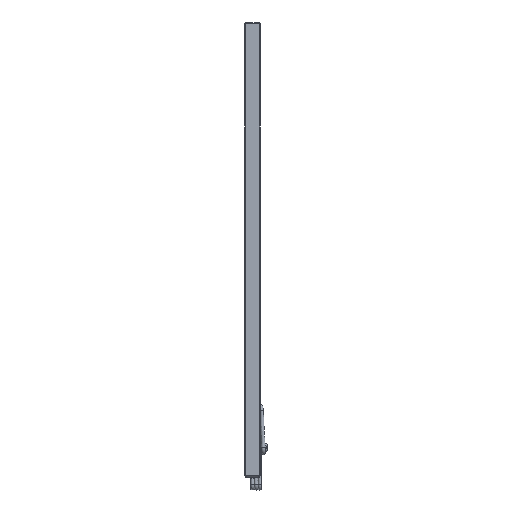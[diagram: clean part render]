
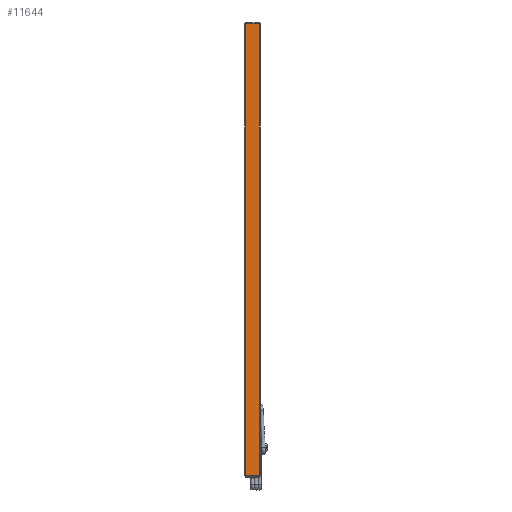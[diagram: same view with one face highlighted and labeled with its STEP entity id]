
A CAD part, front view. The second image highlights one B-rep face of the part: STEP entity #11644.
In plain terms, the highlighted planar face has unit normal (0, -1, 0).
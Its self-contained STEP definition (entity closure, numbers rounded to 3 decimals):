
#1438=FACE_OUTER_BOUND('',#2106,.T.);
#2106=EDGE_LOOP('',(#8266,#8267,#8268,#8269));
#2923=LINE('',#16982,#3985);
#2925=LINE('',#16988,#3987);
#2937=LINE('',#17038,#3999);
#2938=LINE('',#17039,#4000);
#3985=VECTOR('',#13926,10.);
#3987=VECTOR('',#13932,10.);
#3999=VECTOR('',#13972,10.);
#4000=VECTOR('',#13973,10.);
#5018=VERTEX_POINT('',#16979);
#5019=VERTEX_POINT('',#16981);
#5021=VERTEX_POINT('',#16987);
#5045=VERTEX_POINT('',#17037);
#6251=EDGE_CURVE('',#5018,#5019,#2923,.T.);
#6254=EDGE_CURVE('',#5021,#5019,#2925,.T.);
#6279=EDGE_CURVE('',#5018,#5045,#2937,.T.);
#6280=EDGE_CURVE('',#5021,#5045,#2938,.T.);
#8266=ORIENTED_EDGE('',*,*,#6251,.F.);
#8267=ORIENTED_EDGE('',*,*,#6279,.T.);
#8268=ORIENTED_EDGE('',*,*,#6280,.F.);
#8269=ORIENTED_EDGE('',*,*,#6254,.T.);
#11283=PLANE('',#12622);
#11644=ADVANCED_FACE('',(#1438),#11283,.T.);
#12622=AXIS2_PLACEMENT_3D('',#17036,#13970,#13971);
#13926=DIRECTION('',(0.,0.,-1.));
#13932=DIRECTION('',(1.,0.,0.));
#13970=DIRECTION('center_axis',(0.,-1.,0.));
#13971=DIRECTION('ref_axis',(0.,0.,-1.));
#13972=DIRECTION('',(-1.,0.,0.));
#13973=DIRECTION('',(0.,0.,1.));
#16979=CARTESIAN_POINT('',(18.421,0.,1219.2));
#16981=CARTESIAN_POINT('',(18.421,0.,0.));
#16982=CARTESIAN_POINT('',(18.421,0.,0.));
#16987=CARTESIAN_POINT('',(-18.421,0.,0.));
#16988=CARTESIAN_POINT('',(-18.735,0.,0.));
#17036=CARTESIAN_POINT('Origin',(18.735,0.,0.));
#17037=CARTESIAN_POINT('',(-18.421,0.,1219.2));
#17038=CARTESIAN_POINT('',(-18.735,0.,1219.2));
#17039=CARTESIAN_POINT('',(-18.421,0.,0.));
